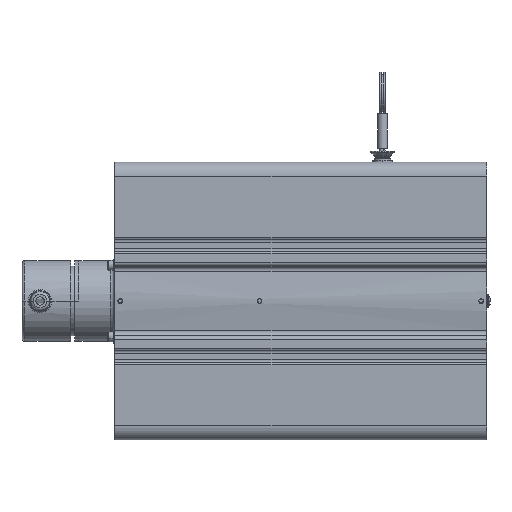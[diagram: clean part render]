
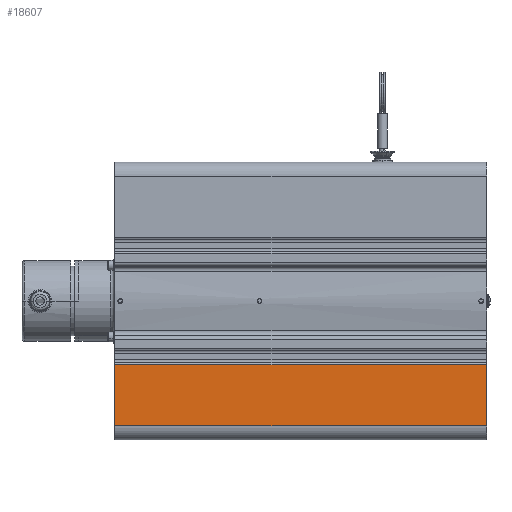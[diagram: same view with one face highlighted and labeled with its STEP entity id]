
A CAD part, front view. The second image highlights one B-rep face of the part: STEP entity #18607.
In plain terms, the highlighted planar face has unit normal (0, -1, 0).
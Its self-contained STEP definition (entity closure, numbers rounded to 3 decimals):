
#263=DIRECTION('',(0.,0.,1.));
#264=VECTOR('',#263,44.275);
#265=CARTESIAN_POINT('',(0.,-99.95,-90.));
#266=LINE('',#265,#264);
#4962=DIRECTION('',(-1.,0.,0.));
#4963=VECTOR('',#4962,268.);
#4964=CARTESIAN_POINT('',(0.,-99.95,-45.725));
#4965=LINE('',#4964,#4963);
#4970=DIRECTION('',(0.,0.,1.));
#4971=VECTOR('',#4970,44.275);
#4972=CARTESIAN_POINT('',(-268.,-99.95,-90.));
#4973=LINE('',#4972,#4971);
#4974=DIRECTION('',(1.,0.,0.));
#4975=VECTOR('',#4974,268.);
#4976=CARTESIAN_POINT('',(-268.,-99.95,-90.));
#4977=LINE('',#4976,#4975);
#12367=CARTESIAN_POINT('',(0.,-99.95,-90.));
#12368=VERTEX_POINT('',#12367);
#12369=CARTESIAN_POINT('',(0.,-99.95,-45.725));
#12370=VERTEX_POINT('',#12369);
#12605=CARTESIAN_POINT('',(-268.,-99.95,-45.725));
#12606=VERTEX_POINT('',#12605);
#12607=CARTESIAN_POINT('',(-268.,-99.95,-90.));
#12608=VERTEX_POINT('',#12607);
#18595=CARTESIAN_POINT('',(0.,-99.95,100.));
#18596=DIRECTION('',(0.,-1.,0.));
#18597=DIRECTION('',(0.,0.,-1.));
#18598=AXIS2_PLACEMENT_3D('',#18595,#18596,#18597);
#18599=PLANE('',#18598);
#18600=ORIENTED_EDGE('',*,*,#18588,.F.);
#18601=ORIENTED_EDGE('',*,*,#13101,.F.);
#18603=ORIENTED_EDGE('',*,*,#18602,.F.);
#18604=ORIENTED_EDGE('',*,*,#13911,.T.);
#18605=EDGE_LOOP('',(#18600,#18601,#18603,#18604));
#18606=FACE_OUTER_BOUND('',#18605,.F.);
#18607=ADVANCED_FACE('',(#18606),#18599,.T.);
#13101=EDGE_CURVE('',#12368,#12370,#266,.T.);
#13911=EDGE_CURVE('',#12608,#12606,#4973,.T.);
#18588=EDGE_CURVE('',#12370,#12606,#4965,.T.);
#18602=EDGE_CURVE('',#12608,#12368,#4977,.T.);
